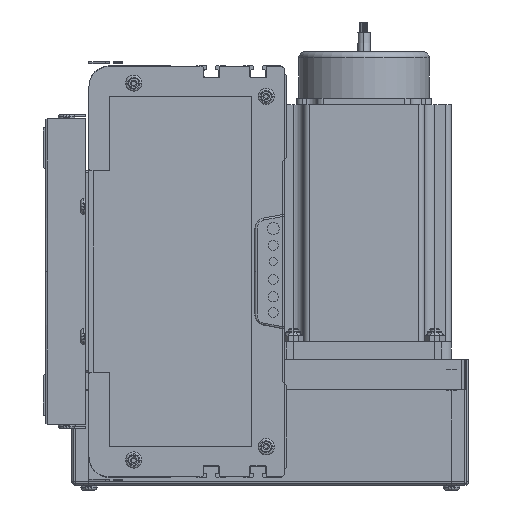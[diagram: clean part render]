
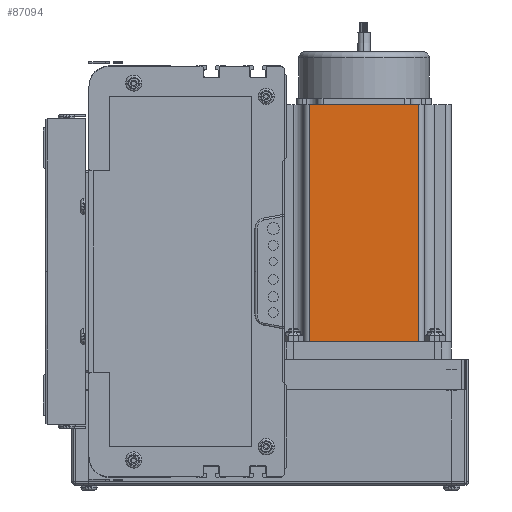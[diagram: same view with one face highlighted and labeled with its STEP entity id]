
A CAD part, left-side view. The second image highlights one B-rep face of the part: STEP entity #87094.
In plain terms, the highlighted planar face has unit normal (-1, 0, 0) as drawn and (0, -1, 0) by its records, which use the part's own axes.
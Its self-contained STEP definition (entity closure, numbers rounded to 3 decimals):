
#86895 = VERTEX_POINT ( 'NONE', #129138 ) ;
#86898 = ORIENTED_EDGE ( 'NONE', *, *, #86964, .T. ) ;
#86905 = ORIENTED_EDGE ( 'NONE', *, *, #86987, .T. ) ;
#86962 = EDGE_CURVE ( 'NONE', #86895, #87093, #129336, .T. ) ;
#86964 = EDGE_CURVE ( 'NONE', #87013, #86895, #129293, .T. ) ;
#86970 = ORIENTED_EDGE ( 'NONE', *, *, #86973, .F. ) ;
#86973 = EDGE_CURVE ( 'NONE', #86974, #87093, #129488, .T. ) ;
#86974 = VERTEX_POINT ( 'NONE', #129470 ) ;
#86987 = EDGE_CURVE ( 'NONE', #86974, #87013, #129445, .T. ) ;
#87013 = VERTEX_POINT ( 'NONE', #129572 ) ;
#87034 = EDGE_LOOP ( 'NONE', ( #86898, #87096, #86970, #86905 ) ) ;
#87093 = VERTEX_POINT ( 'NONE', #130222 ) ;
#87094 = ADVANCED_FACE ( 'NONE', ( #130214 ), #130216, .F. ) ;
#87096 = ORIENTED_EDGE ( 'NONE', *, *, #86962, .T. ) ;
#129138 = CARTESIAN_POINT ( 'NONE',  ( 69.74, 0., 0. ) ) ;
#129293 = LINE ( 'NONE', #129482, #129479 ) ;
#129334 = CARTESIAN_POINT ( 'NONE',  ( 69.74, 0., 116.5 ) ) ;
#129336 = LINE ( 'NONE', #129334, #129494 ) ;
#129430 = DIRECTION ( 'NONE',  ( 0., 0., -1. ) ) ;
#129432 = VECTOR ( 'NONE', #129430, 1000. ) ;
#129444 = CARTESIAN_POINT ( 'NONE',  ( 16.16, 0., 116.5 ) ) ;
#129445 = LINE ( 'NONE', #129444, #129432 ) ;
#129453 = DIRECTION ( 'NONE',  ( 1., 0., 0. ) ) ;
#129455 = VECTOR ( 'NONE', #129453, 1000. ) ;
#129470 = CARTESIAN_POINT ( 'NONE',  ( 16.16, 0., 116.5 ) ) ;
#129478 = DIRECTION ( 'NONE',  ( 1., 0., 0. ) ) ;
#129479 = VECTOR ( 'NONE', #129478, 1000. ) ;
#129482 = CARTESIAN_POINT ( 'NONE',  ( 0., 0., 0. ) ) ;
#129486 = CARTESIAN_POINT ( 'NONE',  ( 0., 0., 116.5 ) ) ;
#129488 = LINE ( 'NONE', #129486, #129455 ) ;
#129491 = DIRECTION ( 'NONE',  ( 0., 0., 1. ) ) ;
#129494 = VECTOR ( 'NONE', #129491, 1000. ) ;
#129572 = CARTESIAN_POINT ( 'NONE',  ( 16.16, 0., 0. ) ) ;
#130192 = DIRECTION ( 'NONE',  ( 0., 0., 1. ) ) ;
#130203 = CARTESIAN_POINT ( 'NONE',  ( 0., 0., 116.5 ) ) ;
#130213 = AXIS2_PLACEMENT_3D ( 'NONE', #130203, #130227, #130192 ) ;
#130214 = FACE_OUTER_BOUND ( 'NONE', #87034, .T. ) ;
#130216 = PLANE ( 'NONE',  #130213 ) ;
#130222 = CARTESIAN_POINT ( 'NONE',  ( 69.74, 0., 116.5 ) ) ;
#130227 = DIRECTION ( 'NONE',  ( 0., 1., 0. ) ) ;
